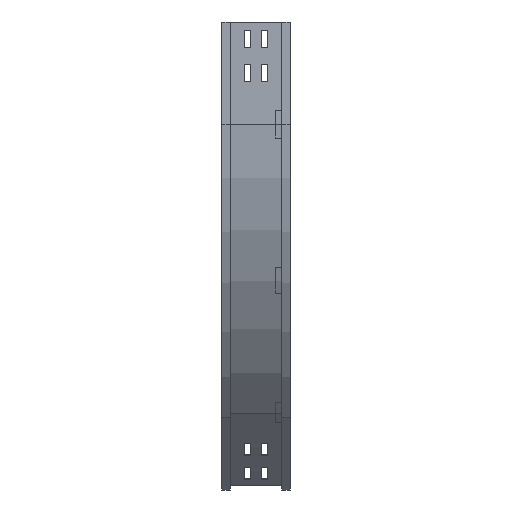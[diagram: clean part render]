
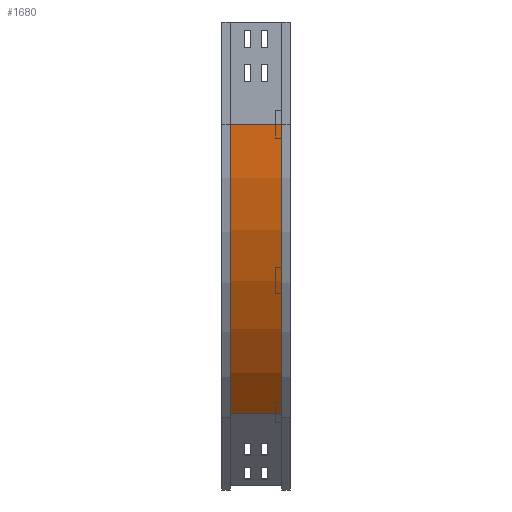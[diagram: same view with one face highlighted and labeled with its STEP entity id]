
A CAD part, left-side view. The second image highlights one B-rep face of the part: STEP entity #1680.
In plain terms, the highlighted cylindrical face has radius 600 mm (diameter 1200 mm), a partial arc.
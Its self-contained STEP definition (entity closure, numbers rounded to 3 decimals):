
#160 = DIRECTION ( 'NONE',  ( -1., 0., 0. ) ) ;
#210 = CARTESIAN_POINT ( 'NONE',  ( 184.736, 88., -574.264 ) ) ;
#284 = EDGE_CURVE ( 'NONE', #3024, #3000, #3561, .T. ) ;
#439 = DIRECTION ( 'NONE',  ( -1., 0., 0. ) ) ;
#574 = EDGE_LOOP ( 'NONE', ( #2757, #1310, #1158, #1725 ) ) ;
#614 = CARTESIAN_POINT ( 'NONE',  ( 9., 88., -150. ) ) ;
#836 = CARTESIAN_POINT ( 'NONE',  ( 9., 12., -150. ) ) ;
#837 = CARTESIAN_POINT ( 'NONE',  ( 609., 12., -150. ) ) ;
#1072 = VERTEX_POINT ( 'NONE', #4128 ) ;
#1158 = ORIENTED_EDGE ( 'NONE', *, *, #284, .T. ) ;
#1220 = LINE ( 'NONE', #836, #3518 ) ;
#1310 = ORIENTED_EDGE ( 'NONE', *, *, #1988, .F. ) ;
#1439 = VECTOR ( 'NONE', #3510, 1000. ) ;
#1488 = CARTESIAN_POINT ( 'NONE',  ( 609., 88., -150. ) ) ;
#1613 = AXIS2_PLACEMENT_3D ( 'NONE', #1488, #3560, #439 ) ;
#1666 = CARTESIAN_POINT ( 'NONE',  ( 609., 0., -150. ) ) ;
#1680 = ADVANCED_FACE ( 'NONE', ( #2698 ), #3058, .T. ) ;
#1725 = ORIENTED_EDGE ( 'NONE', *, *, #1889, .T. ) ;
#1889 = EDGE_CURVE ( 'NONE', #3000, #1072, #3872, .T. ) ;
#1988 = EDGE_CURVE ( 'NONE', #3024, #2996, #1220, .T. ) ;
#2141 = CARTESIAN_POINT ( 'NONE',  ( 184.736, 12., -574.264 ) ) ;
#2698 = FACE_OUTER_BOUND ( 'NONE', #574, .T. ) ;
#2719 = DIRECTION ( 'NONE',  ( 0., 0., -1. ) ) ;
#2757 = ORIENTED_EDGE ( 'NONE', *, *, #3219, .F. ) ;
#2996 = VERTEX_POINT ( 'NONE', #3330 ) ;
#3000 = VERTEX_POINT ( 'NONE', #210 ) ;
#3024 = VERTEX_POINT ( 'NONE', #614 ) ;
#3058 = CYLINDRICAL_SURFACE ( 'NONE', #3595, 600. ) ;
#3169 = CIRCLE ( 'NONE', #4035, 600. ) ;
#3219 = EDGE_CURVE ( 'NONE', #2996, #1072, #3169, .T. ) ;
#3279 = DIRECTION ( 'NONE',  ( 0., -1., 0. ) ) ;
#3330 = CARTESIAN_POINT ( 'NONE',  ( 9., 12., -150. ) ) ;
#3510 = DIRECTION ( 'NONE',  ( 0., -1., 0. ) ) ;
#3518 = VECTOR ( 'NONE', #3279, 1000. ) ;
#3560 = DIRECTION ( 'NONE',  ( 0., -1., 0. ) ) ;
#3561 = CIRCLE ( 'NONE', #1613, 600. ) ;
#3595 = AXIS2_PLACEMENT_3D ( 'NONE', #1666, #4100, #2719 ) ;
#3872 = LINE ( 'NONE', #2141, #1439 ) ;
#3900 = DIRECTION ( 'NONE',  ( 0., -1., 0. ) ) ;
#4035 = AXIS2_PLACEMENT_3D ( 'NONE', #837, #3900, #160 ) ;
#4100 = DIRECTION ( 'NONE',  ( 0., -1., 0. ) ) ;
#4128 = CARTESIAN_POINT ( 'NONE',  ( 184.736, 12., -574.264 ) ) ;
